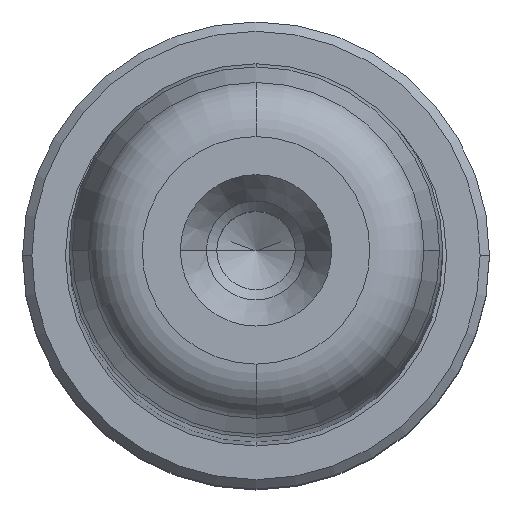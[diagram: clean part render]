
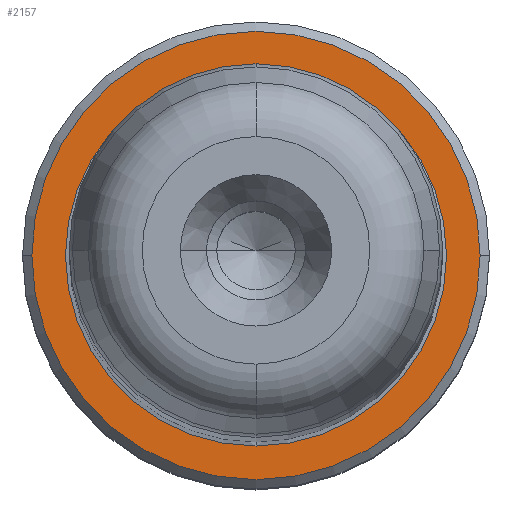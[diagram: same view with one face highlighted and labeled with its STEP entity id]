
A CAD part, top view. The second image highlights one B-rep face of the part: STEP entity #2157.
In plain terms, the highlighted planar face has unit normal (0, 0, 1).
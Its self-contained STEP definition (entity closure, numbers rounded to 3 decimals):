
#898=CARTESIAN_POINT('',(0.0,-10.2,3.3));
#899=VERTEX_POINT('',#898);
#907=CARTESIAN_POINT('',(10.2,0.,3.3));
#908=VERTEX_POINT('',#907);
#909=CARTESIAN_POINT('',(0.0,0.,3.3));
#910=DIRECTION('',(0.0,0.0,1.0));
#911=DIRECTION('',(1.0,0.0,0.0));
#912=AXIS2_PLACEMENT_3D('',#909,#910,#911);
#913=CIRCLE('',#912,10.2);
#914=EDGE_CURVE('',#899,#908,#913,.T.);
#916=CARTESIAN_POINT('',(0.,10.2,3.3));
#917=VERTEX_POINT('',#916);
#918=CARTESIAN_POINT('',(0.0,0.,3.3));
#919=DIRECTION('',(0.0,0.0,1.0));
#920=DIRECTION('',(1.0,0.0,0.0));
#921=AXIS2_PLACEMENT_3D('',#918,#919,#920);
#922=CIRCLE('',#921,10.2);
#923=EDGE_CURVE('',#908,#917,#922,.T.);
#950=CARTESIAN_POINT('',(12.0,0.,3.3));
#951=VERTEX_POINT('',#950);
#960=CARTESIAN_POINT('',(-12.,0.,3.3));
#961=VERTEX_POINT('',#960);
#962=CARTESIAN_POINT('',(0.0,0.,3.3));
#963=DIRECTION('',(0.0,0.0,1.0));
#964=DIRECTION('',(1.0,0.0,0.0));
#965=AXIS2_PLACEMENT_3D('',#962,#963,#964);
#966=CIRCLE('',#965,12.0);
#967=EDGE_CURVE('',#961,#951,#966,.T.);
#2127=CARTESIAN_POINT('',(0.0,0.,3.3));
#2128=DIRECTION('',(0.0,0.0,1.0));
#2129=DIRECTION('',(1.0,0.0,0.0));
#2130=AXIS2_PLACEMENT_3D('',#2127,#2128,#2129);
#2131=CIRCLE('',#2130,12.0);
#2132=EDGE_CURVE('',#951,#961,#2131,.T.);
#2137=CARTESIAN_POINT('',(11.1,0.,3.3));
#2138=DIRECTION('',(0.0,0.0,1.0));
#2139=DIRECTION('',(0.0,-1.0,0.0));
#2140=AXIS2_PLACEMENT_3D('',#2137,#2138,#2139);
#2141=PLANE('',#2140);
#2142=ORIENTED_EDGE('',*,*,#2132,.T.);
#2143=ORIENTED_EDGE('',*,*,#967,.T.);
#2144=EDGE_LOOP('',(#2142,#2143));
#2145=FACE_OUTER_BOUND('',#2144,.T.);
#2146=ORIENTED_EDGE('',*,*,#923,.F.);
#2147=ORIENTED_EDGE('',*,*,#914,.F.);
#2148=CARTESIAN_POINT('',(0.0,0.,3.3));
#2149=DIRECTION('',(0.0,0.0,1.0));
#2150=DIRECTION('',(1.0,0.0,0.0));
#2151=AXIS2_PLACEMENT_3D('',#2148,#2149,#2150);
#2152=CIRCLE('',#2151,10.2);
#2153=EDGE_CURVE('',#917,#899,#2152,.T.);
#2154=ORIENTED_EDGE('',*,*,#2153,.F.);
#2155=EDGE_LOOP('',(#2146,#2147,#2154));
#2156=FACE_BOUND('',#2155,.T.);
#2157=ADVANCED_FACE('',(#2145,#2156),#2141,.T.);
